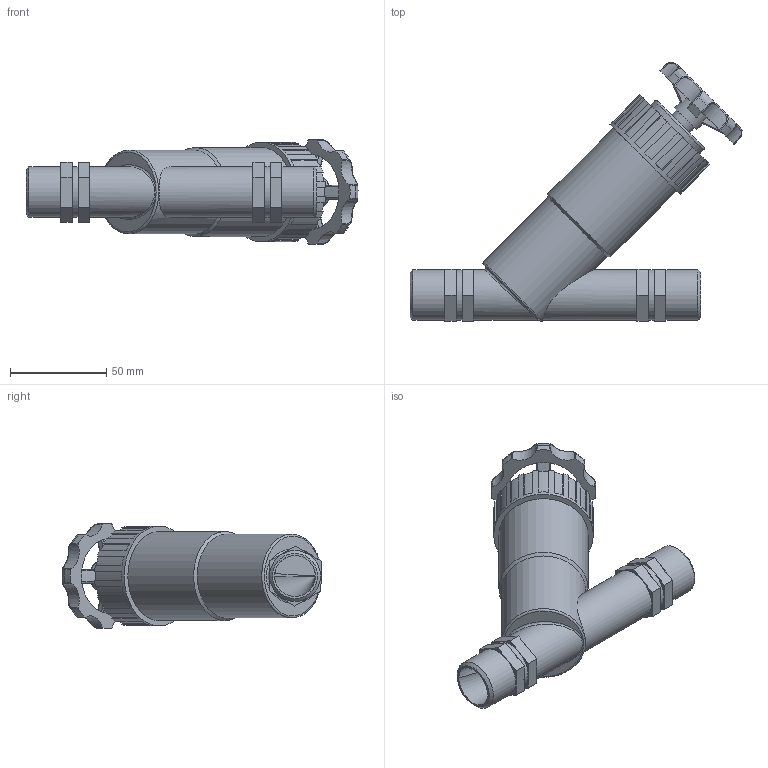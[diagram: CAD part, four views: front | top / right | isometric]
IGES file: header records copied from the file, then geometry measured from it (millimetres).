
Global section: file name: 03047077_030470770A_03049077.ipt; native system: Autodesk Inventor 2015; preprocessor: unknown; author: KIM; date: 20170619.121317; units: millimetre
Bounding box: 172.49 x 134.62 x 54.43 mm (x, y, z)
Volume: 235803.5 mm3; surface area: 47306.8 mm2
Topology: 1 solids, 2 shells, 222 faces, 598 edges, 387 vertices
Faces by surface type: plane 110, cylinder 57, bspline 26, revolution 22, cone 7
Full cylindrical faces by diameter (mm): 13.068 x1, 16.335 x1, 26.441 x6, 35.937 x1, 43.56 x1, 46.282 x1, 51.727 x1
